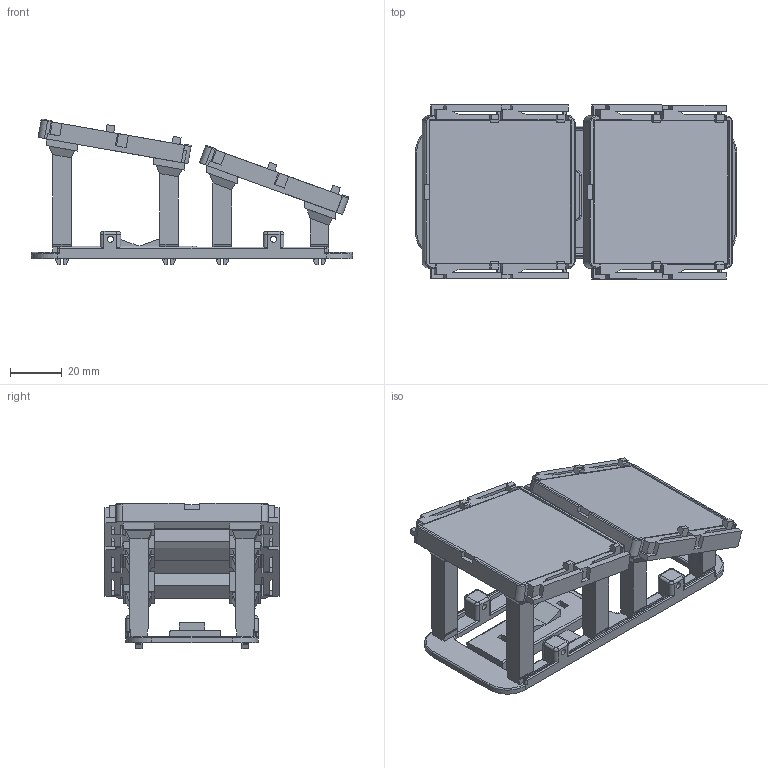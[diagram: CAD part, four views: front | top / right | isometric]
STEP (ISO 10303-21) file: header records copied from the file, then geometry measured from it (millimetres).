
FILE_DESCRIPTION(('Open CASCADE Model'),'2;1');
FILE_NAME('Open CASCADE Shape Model','2026-11-15T18:33:06',('Author'),( 'Open CASCADE'),'Open CASCADE STEP processor 7.9','Open CASCADE 7.9' ,'Unknown');
FILE_SCHEMA(('AUTOMOTIVE_DESIGN { 1 0 10303 214 1 1 1 1 }'));
Length unit declared in the file: millimetre
Products named in the file (14): BF5; chassis; F-frame; F-panel; F1--1; F1-1; F2--1; F2-1; R-frame; R-panel; R1--1; R1-1; R2--1; R2-1
Assembly tree (13 placements, depth 2):
  BF5
    chassis
    F-frame
    F-panel
    F1--1
    F1-1
    F2--1
    F2-1
    R-frame
    R-panel
    R1--1
    R1-1
    R2--1
    R2-1
Bounding box: 124 x 67.2 x 56.29 mm (x, y, z)
Volume: 65012.5 mm3; surface area: 61168.8 mm2
Topology: 13 solids, 13 shells, 1116 faces, 3100 edges, 2012 vertices
Faces by surface type: plane 896, cylinder 134, bspline 40, revolution 24, torus 22
Full cylindrical faces by diameter (mm): 2.3 x4
Entity records: 80456 total; most frequent: CARTESIAN_POINT 18134, DIRECTION 11345, LINE 8448, VECTOR 8448, ORIENTED_EDGE 6200, PCURVE 6200, DEFINITIONAL_REPRESENTATION 6200, EDGE_CURVE 3100
